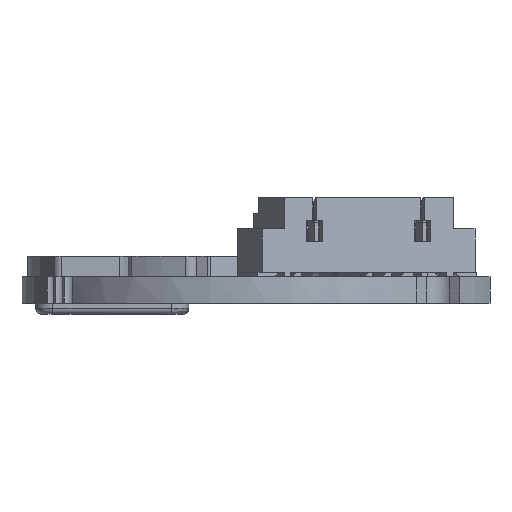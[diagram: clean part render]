
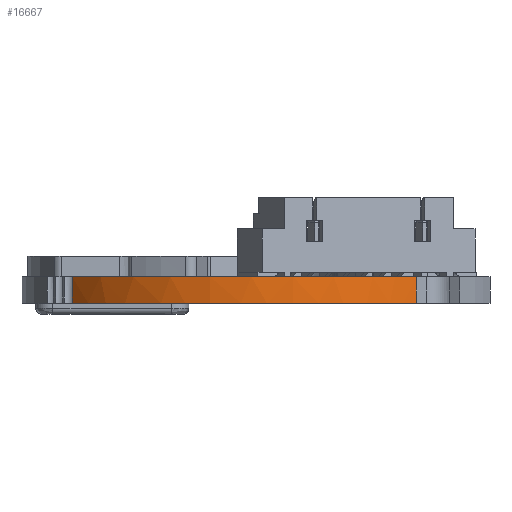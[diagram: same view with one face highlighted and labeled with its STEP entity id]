
A CAD part, front view. The second image highlights one B-rep face of the part: STEP entity #16667.
In plain terms, the highlighted cylindrical face has radius 14.25 mm (diameter 28.5 mm), a partial arc.
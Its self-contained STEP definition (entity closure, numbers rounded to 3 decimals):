
#8 = B_SPLINE_CURVE_WITH_KNOTS ( 'NONE', 3,
 ( #425, #6124, #2959, #2770 ),
 .UNSPECIFIED., .F., .F.,
 ( 4, 4 ),
 ( 0., 1. ),
 .UNSPECIFIED. ) ;
#204 = CARTESIAN_POINT ( 'NONE',  ( 20.776, -0.04, -1.562 ) ) ;
#425 = CARTESIAN_POINT ( 'NONE',  ( 21.968, 0.926, -1.562 ) ) ;
#891 = CARTESIAN_POINT ( 'NONE',  ( 1.711, 3.304, -1.552 ) ) ;
#1414 = CARTESIAN_POINT ( 'NONE',  ( 9.471, -1.839, 0. ) ) ;
#1791 = CARTESIAN_POINT ( 'NONE',  ( 5.147, 0.071, 0. ) ) ;
#2090 = B_SPLINE_CURVE_WITH_KNOTS ( 'NONE', 3,
 ( #8695, #5326, #14819, #24061 ),
 .UNSPECIFIED., .F., .F.,
 ( 4, 4 ),
 ( 0., 1. ),
 .UNSPECIFIED. ) ;
#2744 = CARTESIAN_POINT ( 'NONE',  ( 2.591, 2.162, -1.552 ) ) ;
#2770 = CARTESIAN_POINT ( 'NONE',  ( 21.968, 0.926, 0. ) ) ;
#2959 = CARTESIAN_POINT ( 'NONE',  ( 21.968, 0.926, -0.521 ) ) ;
#3126 = CARTESIAN_POINT ( 'NONE',  ( 4.827, 0.327, -1.562 ) ) ;
#3333 = CARTESIAN_POINT ( 'NONE',  ( 10.423, -2.099, -1.562 ) ) ;
#3738 = ORIENTED_EDGE ( 'NONE', *, *, #23246, .T. ) ;
#4115 = VERTEX_POINT ( 'NONE', #34704 ) ;
#5326 = CARTESIAN_POINT ( 'NONE',  ( 4.827, 0.327, -1.556 ) ) ;
#5818 = AXIS2_PLACEMENT_3D ( 'NONE', #35890, #23639, #8858 ) ;
#6089 = CARTESIAN_POINT ( 'NONE',  ( 15.03, -2.188, -1.562 ) ) ;
#6124 = CARTESIAN_POINT ( 'NONE',  ( 21.968, 0.926, -1.042 ) ) ;
#6478 = B_SPLINE_CURVE_WITH_KNOTS ( 'NONE', 3,
 ( #7341, #22323, #13277, #10706, #1791, #34393, #28431, #1414, #25840, #7535, #25482, #31988, #37531, #10908, #10523, #22903, #22505, #34960 ),
 .UNSPECIFIED., .F., .F.,
 ( 4, 2, 2, 2, 2, 2, 2, 2, 4 ),
 ( 0., 0.125, 0.25, 0.375, 0.5, 0.625, 0.75, 0.875, 1. ),
 .UNSPECIFIED. ) ;
#7341 = CARTESIAN_POINT ( 'NONE',  ( 1.711, 3.304, 0. ) ) ;
#7535 = CARTESIAN_POINT ( 'NONE',  ( 12.282, -2.264, 0. ) ) ;
#8231 = ORIENTED_EDGE ( 'NONE', *, *, #14297, .T. ) ;
#8567 = VERTEX_POINT ( 'NONE', #16870 ) ;
#8695 = CARTESIAN_POINT ( 'NONE',  ( 4.827, 0.327, -1.552 ) ) ;
#8747 = ORIENTED_EDGE ( 'NONE', *, *, #18730, .T. ) ;
#8858 = DIRECTION ( 'NONE',  ( -1., 0., 0. ) ) ;
#10523 = CARTESIAN_POINT ( 'NONE',  ( 18.755, -1.071, 0. ) ) ;
#10706 = CARTESIAN_POINT ( 'NONE',  ( 4.374, 0.617, 0. ) ) ;
#10908 = CARTESIAN_POINT ( 'NONE',  ( 17.877, -1.423, 0. ) ) ;
#11583 = EDGE_LOOP ( 'NONE', ( #18593, #8747, #8231, #3738, #13041, #35336 ) ) ;
#13041 = ORIENTED_EDGE ( 'NONE', *, *, #24172, .T. ) ;
#13277 = CARTESIAN_POINT ( 'NONE',  ( 2.94, 1.863, 0. ) ) ;
#13554 = VERTEX_POINT ( 'NONE', #32110 ) ;
#13637 = CARTESIAN_POINT ( 'NONE',  ( 1.711, 3.304, -1.035 ) ) ;
#14083 = EDGE_CURVE ( 'NONE', #8567, #31145, #17196, .T. ) ;
#14297 = EDGE_CURVE ( 'NONE', #4115, #20084, #2090, .T. ) ;
#14819 = CARTESIAN_POINT ( 'NONE',  ( 4.827, 0.327, -1.559 ) ) ;
#16667 = ADVANCED_FACE ( 'NONE', ( #32702 ), #38644, .T. ) ;
#16870 = CARTESIAN_POINT ( 'NONE',  ( 1.711, 3.304, 0. ) ) ;
#17020 = B_SPLINE_CURVE_WITH_KNOTS ( 'NONE', 3,
 ( #20917, #2744, #19130, #30605 ),
 .UNSPECIFIED., .F., .F.,
 ( 4, 4 ),
 ( 0., 1. ),
 .UNSPECIFIED. ) ;
#17196 = B_SPLINE_CURVE_WITH_KNOTS ( 'NONE', 3,
 ( #37914, #19743, #13637, #19932 ),
 .UNSPECIFIED., .F., .F.,
 ( 4, 4 ),
 ( 0., 1. ),
 .UNSPECIFIED. ) ;
#17958 = CARTESIAN_POINT ( 'NONE',  ( 19.427, -0.81, -1.562 ) ) ;
#18133 = CARTESIAN_POINT ( 'NONE',  ( 21.968, 0.926, -1.562 ) ) ;
#18593 = ORIENTED_EDGE ( 'NONE', *, *, #14083, .T. ) ;
#18730 = EDGE_CURVE ( 'NONE', #31145, #4115, #17020, .T. ) ;
#19130 = CARTESIAN_POINT ( 'NONE',  ( 3.645, 1.154, -1.552 ) ) ;
#19743 = CARTESIAN_POINT ( 'NONE',  ( 1.711, 3.304, -0.517 ) ) ;
#19932 = CARTESIAN_POINT ( 'NONE',  ( 1.711, 3.304, -1.552 ) ) ;
#20084 = VERTEX_POINT ( 'NONE', #38188 ) ;
#20917 = CARTESIAN_POINT ( 'NONE',  ( 1.711, 3.304, -1.552 ) ) ;
#21200 = B_SPLINE_CURVE_WITH_KNOTS ( 'NONE', 3,
 ( #3126, #27006, #27212, #3333, #21284, #6089, #36702, #17958, #204, #18133 ),
 .UNSPECIFIED., .F., .F.,
 ( 4, 2, 2, 2, 4 ),
 ( 0., 0.25, 0.5, 0.75, 1. ),
 .UNSPECIFIED. ) ;
#21284 = CARTESIAN_POINT ( 'NONE',  ( 11.965, -2.295, -1.562 ) ) ;
#22323 = CARTESIAN_POINT ( 'NONE',  ( 2.291, 2.551, 0. ) ) ;
#22505 = CARTESIAN_POINT ( 'NONE',  ( 21.229, 0.328, 0. ) ) ;
#22903 = CARTESIAN_POINT ( 'NONE',  ( 20.439, -0.191, 0. ) ) ;
#23246 = EDGE_CURVE ( 'NONE', #20084, #13554, #21200, .T. ) ;
#23639 = DIRECTION ( 'NONE',  ( 0., 0., -1. ) ) ;
#24061 = CARTESIAN_POINT ( 'NONE',  ( 4.827, 0.327, -1.562 ) ) ;
#24172 = EDGE_CURVE ( 'NONE', #13554, #29218, #8, .T. ) ;
#25482 = CARTESIAN_POINT ( 'NONE',  ( 13.228, -2.28, 0. ) ) ;
#25840 = CARTESIAN_POINT ( 'NONE',  ( 10.395, -2.042, 0. ) ) ;
#27006 = CARTESIAN_POINT ( 'NONE',  ( 6.083, -0.553, -1.562 ) ) ;
#27212 = CARTESIAN_POINT ( 'NONE',  ( 7.482, -1.228, -1.562 ) ) ;
#28431 = CARTESIAN_POINT ( 'NONE',  ( 7.665, -1.248, 0. ) ) ;
#29218 = VERTEX_POINT ( 'NONE', #31952 ) ;
#30605 = CARTESIAN_POINT ( 'NONE',  ( 4.827, 0.327, -1.552 ) ) ;
#31145 = VERTEX_POINT ( 'NONE', #891 ) ;
#31465 = EDGE_CURVE ( 'NONE', #8567, #29218, #6478, .T. ) ;
#31952 = CARTESIAN_POINT ( 'NONE',  ( 21.968, 0.926, 0. ) ) ;
#31988 = CARTESIAN_POINT ( 'NONE',  ( 15.121, -2.123, 0. ) ) ;
#32110 = CARTESIAN_POINT ( 'NONE',  ( 21.968, 0.926, -1.562 ) ) ;
#32702 = FACE_OUTER_BOUND ( 'NONE', #11583, .T. ) ;
#34393 = CARTESIAN_POINT ( 'NONE',  ( 6.8, -0.866, 0. ) ) ;
#34704 = CARTESIAN_POINT ( 'NONE',  ( 4.827, 0.327, -1.552 ) ) ;
#34960 = CARTESIAN_POINT ( 'NONE',  ( 21.968, 0.926, 0. ) ) ;
#35336 = ORIENTED_EDGE ( 'NONE', *, *, #31465, .F. ) ;
#35890 = CARTESIAN_POINT ( 'NONE',  ( 13., 12., -1.562 ) ) ;
#36702 = CARTESIAN_POINT ( 'NONE',  ( 16.554, -1.885, -1.562 ) ) ;
#37531 = CARTESIAN_POINT ( 'NONE',  ( 16.052, -1.952, 0. ) ) ;
#37914 = CARTESIAN_POINT ( 'NONE',  ( 1.711, 3.304, 0. ) ) ;
#38188 = CARTESIAN_POINT ( 'NONE',  ( 4.827, 0.327, -1.562 ) ) ;
#38644 = CYLINDRICAL_SURFACE ( 'NONE', #5818, 14.25 ) ;
